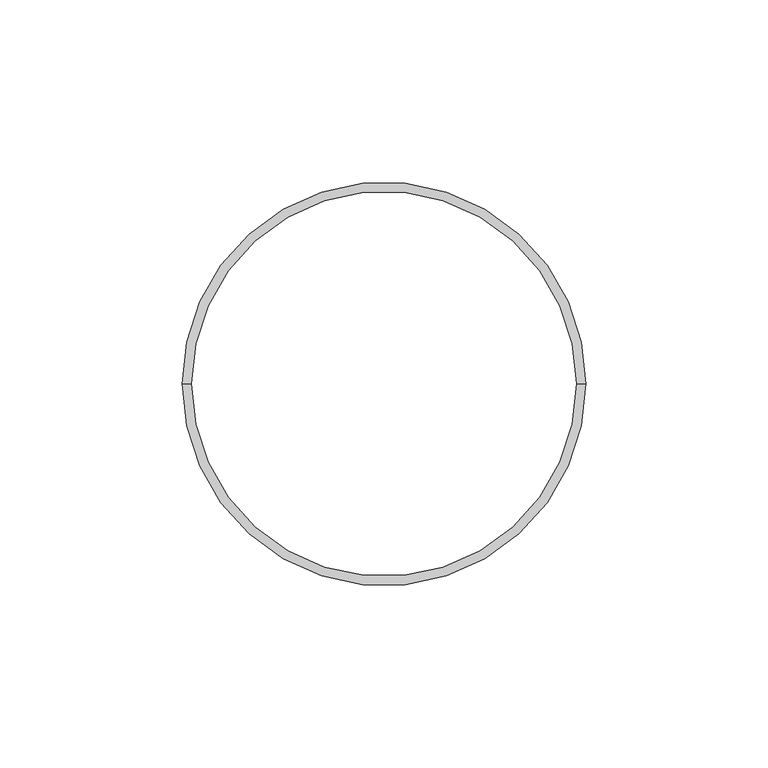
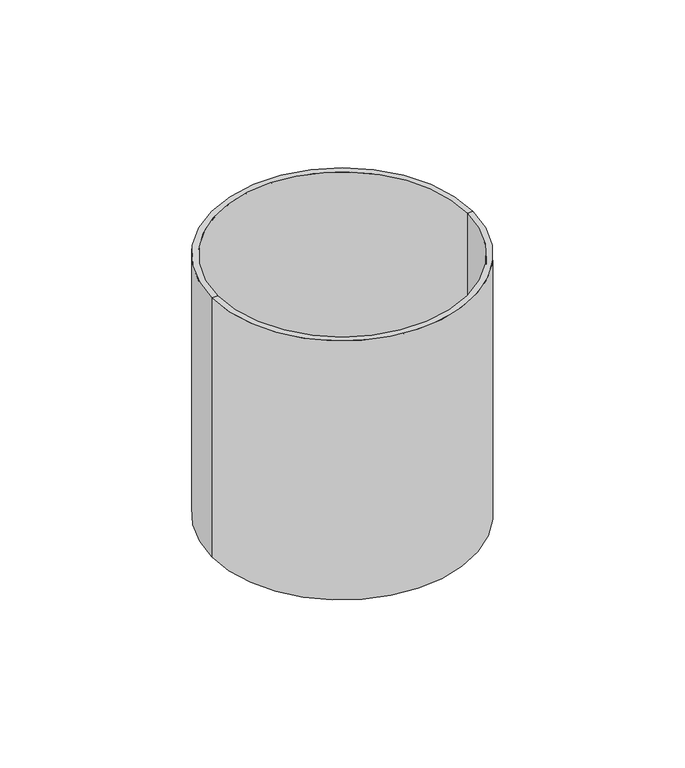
"""IFC4 building model written with IfcOpenShell, lengths in millimetres: pipe fitting geometry, AmancoWavin_ConexõesdeTubos_SaneamentoEsgotoNãoUsarProlongamento : Novafort."""

from ifc_helpers import new_model, si_unit, frame, origin, place, context, project, spatial, polyline, circle_curve, source, transform, mapped, element, save
from ifc_brep_helpers import plane_surface, cylinder_surface, revolved_surface, advanced_brep


def pipe_fitting_b7bcc274(model_context):
    return source(origin(), model_context, "Body", "AdvancedBrep", [
        advanced_brep(
        [(55.325, 0.0, 0.0), (-55.325, 0.0, 0.0), (-55.325, 0.0, 116.004), (55.325, 0.0, 116.004), (52.825, 0.0, 0.0), (-52.825, 0.0, 0.0), (52.825, 0.0, 116.004), (-52.825, 0.0, 116.004)],
        [
            (0, 1, circle_curve(frame((0.0, 0.0, 0.0), z_axis=(0.0, 0.0, 1.0), x_axis=(-1.0, 0.0, 0.0)), 55.325)),
            (1, 2),
            (2, 3, circle_curve(frame((0.0, 0.0, 116.004), z_axis=(0.0, 0.0, -1.0), x_axis=(-1.0, 0.0, 0.0)), 55.325)),
            (3, 0),
            (1, 0, circle_curve(frame((0.0, 0.0, 0.0), z_axis=(0.0, 0.0, 1.0), x_axis=(-1.0, 0.0, 0.0)), 55.325)),
            (3, 2, circle_curve(frame((0.0, 0.0, 116.004), z_axis=(0.0, 0.0, -1.0), x_axis=(-1.0, 0.0, 0.0)), 55.325)),
            (4, 5, circle_curve(frame((0.0, 0.0, 0.0), z_axis=(0.0, 0.0, 1.0), x_axis=(-1.0, 0.0, 0.0)), 52.825)),
            (5, 1),
            (0, 4),
            (5, 4, circle_curve(frame((0.0, 0.0, 0.0), z_axis=(0.0, 0.0, 1.0), x_axis=(-1.0, 0.0, 0.0)), 52.825)),
            (6, 7, circle_curve(frame((0.0, 0.0, 116.004), z_axis=(0.0, 0.0, 1.0), x_axis=(-1.0, 0.0, 0.0)), 52.825)),
            (7, 5),
            (4, 6),
            (7, 6, circle_curve(frame((0.0, 0.0, 116.004), z_axis=(0.0, 0.0, 1.0), x_axis=(-1.0, 0.0, 0.0)), 52.825)),
            (2, 7),
            (6, 3),
        ],
        [
            cylinder_surface(frame((0.0, 0.0, 1598.6190031), z_axis=(0.0, 0.0, -1.0), x_axis=(-1.0, 0.0, 0.0)), 55.325),
            plane_surface(frame((0.0, 0.0, 0.0), z_axis=(0.0, 0.0, -1.0), x_axis=(-1.0, 0.0, 0.0))),
            revolved_surface(polyline([(-52.825, 0.0, 0.0), (-52.825, 0.0, 116.0039999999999)]), (0.0, 0.0, 1598.6190031), (0.0, 0.0, -1.0)),
            plane_surface(frame((0.0, 0.0, 116.004), z_axis=(0.0, 0.0, 1.0), x_axis=(-1.0, 0.0, 0.0))),
        ],
        [
            (0, [[1, 2, 3, 4]]),
            (0, [[5, -4, 6, -2]]),
            (1, [[7, 8, -1, 9]]),
            (1, [[10, -9, -5, -8]]),
            (2, [[11, 12, -7, 13]]),
            (2, [[14, -13, -10, -12]]),
            (3, [[-3, 15, -11, 16]]),
            (3, [[-6, -16, -14, -15]]),
        ],
    ),
    ])


if __name__ == "__main__":
    model = new_model("IFC4")
    model_context = context("Model", 3, world=origin())
    ifc_project = project(units=[si_unit("LENGTHUNIT", "METRE", prefix="MILLI")], contexts=[model_context])
    site = spatial("IfcSite", under=ifc_project)
    building = spatial("IfcBuilding", under=site)
    placement = place(None, origin())
    pipe_fitting_shape = pipe_fitting_b7bcc274(model_context)
    element("IfcPipeFitting", 1, ObjectType="AmancoWavin_ConexõesdeTubos_SaneamentoEsgotoNãoUsarProlongamento : Novafort", at=placement, inside=building, context=model_context, shape_type="MappedRepresentation", body=[
        mapped(pipe_fitting_shape, transform((0.0, 0.0, 0.0), x_axis=(1.0, 0.0, 0.0), y_axis=(0.0, 1.0, 0.0), z_axis=(0.0, 0.0, 1.0))),
    ])
    save(model, "model.ifc")
